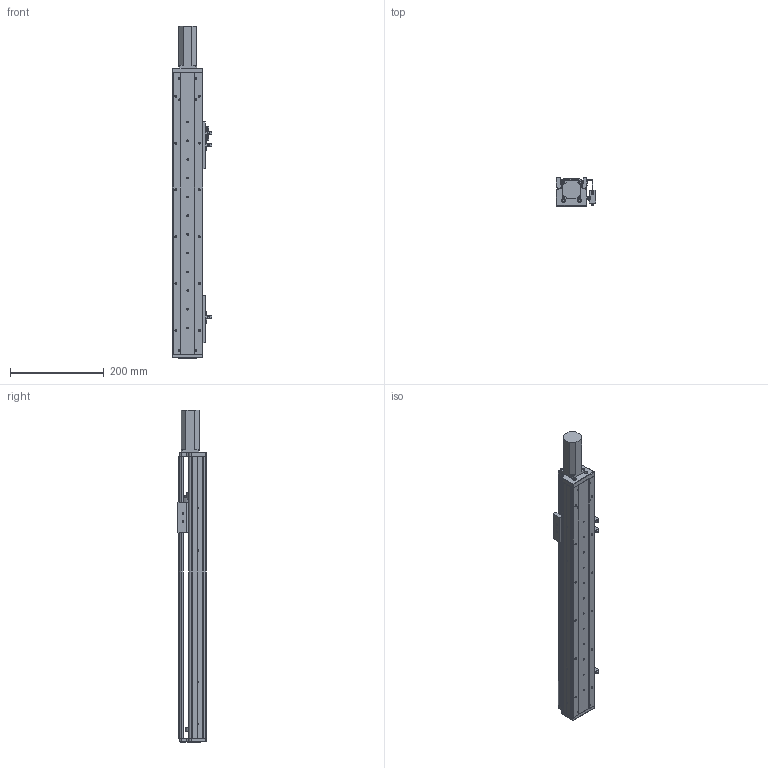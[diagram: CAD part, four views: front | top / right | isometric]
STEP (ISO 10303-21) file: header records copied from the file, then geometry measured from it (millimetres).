
FILE_DESCRIPTION (( 'STEP AP203' ), '1' );
FILE_NAME ('RY60-L1210-300-MK.SLDASM_400.step', '2021-02-20T01:55:54', ( '' ), ( '' ), 'SwSTEP 2.0', 'SolidWorks 2012', '' );
FILE_SCHEMA (( 'CONFIG_CONTROL_DESIGN' ));
Length unit declared in the file: millimetre
Products named in the file (13): RY60-L1210-300-MK.SLDASM_400; SFN1210螺母(没线割）; RY60綴裔啣; 滅袉蝶18-10; 滅袉蝶18-20; RY80俋离覜茼え; 覜茼ん672; 672嫖萇羲壽假蚾釱; 侂狟100W; RY60-300倰第裔啣-MK_400; RY60臏賑輸; RY60-300倰第菁釱-MK_400; RY60前盖板100(PCD46-M4)
Assembly tree (17 placements, depth 2):
  RY60-L1210-300-MK.SLDASM_400
    RY60-300倰第菁釱-MK_400
    RY60臏賑輸
    RY60-300倰第裔啣-MK_400
    RY60前盖板100(PCD46-M4)
    672嫖萇羲壽假蚾釱  x2
    覜茼ん672  x3
    RY80俋离覜茼え
    侂狟100W
    滅袉蝶18-20  x2
    滅袉蝶18-10  x2
    RY60綴裔啣
    SFN1210螺母(没线割）
Bounding box: 83.7 x 61 x 709 mm (x, y, z)
Volume: 838382.6 mm3; surface area: 399724.8 mm2
Topology: 18 solids, 18 shells, 1125 faces, 3164 edges, 2046 vertices
Faces by surface type: plane 541, cylinder 512, cone 63, bspline 9
Entity records: 36428 total; most frequent: CARTESIAN_POINT 8630, ORIENTED_EDGE 5592, DIRECTION 5395, EDGE_CURVE 2796, AXIS2_PLACEMENT_3D 1869, VERTEX_POINT 1830, VECTOR 1657, LINE 1657
